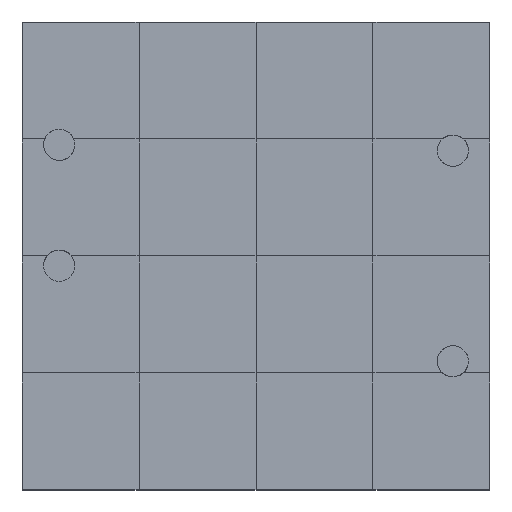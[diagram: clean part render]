
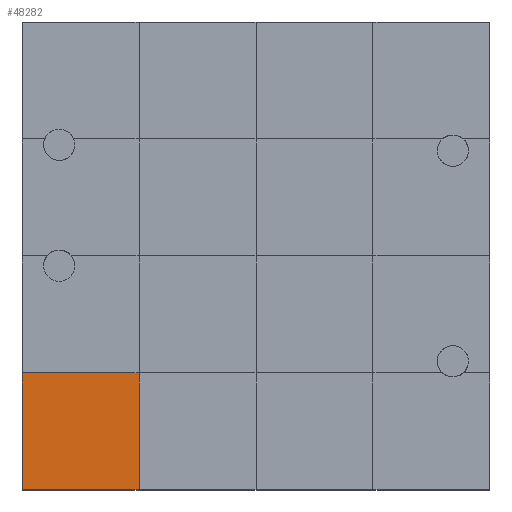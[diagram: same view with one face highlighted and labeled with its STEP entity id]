
A CAD part, top view. The second image highlights one B-rep face of the part: STEP entity #48282.
In plain terms, the highlighted planar face has unit normal (0, 0, 1).
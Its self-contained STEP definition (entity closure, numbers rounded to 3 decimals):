
#48093 = VERTEX_POINT('',#48094);
#48094 = CARTESIAN_POINT('',(0.,0.,1.5));
#48101 = PLANE('',#48102);
#48102 = AXIS2_PLACEMENT_3D('',#48103,#48104,#48105);
#48103 = CARTESIAN_POINT('',(0.,0.,0.));
#48104 = DIRECTION('',(1.,0.,-0.));
#48105 = DIRECTION('',(0.,0.,1.));
#48113 = PLANE('',#48114);
#48114 = AXIS2_PLACEMENT_3D('',#48115,#48116,#48117);
#48115 = CARTESIAN_POINT('',(0.,0.,0.));
#48116 = DIRECTION('',(-0.,1.,0.));
#48117 = DIRECTION('',(0.,0.,1.));
#48154 = VERTEX_POINT('',#48155);
#48155 = CARTESIAN_POINT('',(0.,3.,1.5));
#48181 = EDGE_CURVE('',#48093,#48154,#48182,.T.);
#48182 = SURFACE_CURVE('',#48183,(#48187,#48194),.PCURVE_S1.);
#48183 = LINE('',#48184,#48185);
#48184 = CARTESIAN_POINT('',(0.,0.,1.5));
#48185 = VECTOR('',#48186,1.);
#48186 = DIRECTION('',(-0.,1.,0.));
#48187 = PCURVE('',#48101,#48188);
#48188 = DEFINITIONAL_REPRESENTATION('',(#48189),#48193);
#48189 = LINE('',#48190,#48191);
#48190 = CARTESIAN_POINT('',(1.5,0.));
#48191 = VECTOR('',#48192,1.);
#48192 = DIRECTION('',(0.,-1.));
#48193 = ( GEOMETRIC_REPRESENTATION_CONTEXT(2) 
PARAMETRIC_REPRESENTATION_CONTEXT() REPRESENTATION_CONTEXT('2D SPACE',''
  ) );
#48194 = PCURVE('',#48195,#48200);
#48195 = PLANE('',#48196);
#48196 = AXIS2_PLACEMENT_3D('',#48197,#48198,#48199);
#48197 = CARTESIAN_POINT('',(0.,0.,1.5));
#48198 = DIRECTION('',(0.,0.,1.));
#48199 = DIRECTION('',(1.,0.,-0.));
#48200 = DEFINITIONAL_REPRESENTATION('',(#48201),#48205);
#48201 = LINE('',#48202,#48203);
#48202 = CARTESIAN_POINT('',(0.,0.));
#48203 = VECTOR('',#48204,1.);
#48204 = DIRECTION('',(0.,1.));
#48205 = ( GEOMETRIC_REPRESENTATION_CONTEXT(2) 
PARAMETRIC_REPRESENTATION_CONTEXT() REPRESENTATION_CONTEXT('2D SPACE',''
  ) );
#48234 = EDGE_CURVE('',#48093,#48235,#48237,.T.);
#48235 = VERTEX_POINT('',#48236);
#48236 = CARTESIAN_POINT('',(3.,0.,1.5));
#48237 = SURFACE_CURVE('',#48238,(#48242,#48249),.PCURVE_S1.);
#48238 = LINE('',#48239,#48240);
#48239 = CARTESIAN_POINT('',(0.,0.,1.5));
#48240 = VECTOR('',#48241,1.);
#48241 = DIRECTION('',(1.,0.,-0.));
#48242 = PCURVE('',#48113,#48243);
#48243 = DEFINITIONAL_REPRESENTATION('',(#48244),#48248);
#48244 = LINE('',#48245,#48246);
#48245 = CARTESIAN_POINT('',(1.5,0.));
#48246 = VECTOR('',#48247,1.);
#48247 = DIRECTION('',(0.,1.));
#48248 = ( GEOMETRIC_REPRESENTATION_CONTEXT(2) 
PARAMETRIC_REPRESENTATION_CONTEXT() REPRESENTATION_CONTEXT('2D SPACE',''
  ) );
#48249 = PCURVE('',#48195,#48250);
#48250 = DEFINITIONAL_REPRESENTATION('',(#48251),#48255);
#48251 = LINE('',#48252,#48253);
#48252 = CARTESIAN_POINT('',(0.,0.));
#48253 = VECTOR('',#48254,1.);
#48254 = DIRECTION('',(1.,0.));
#48255 = ( GEOMETRIC_REPRESENTATION_CONTEXT(2) 
PARAMETRIC_REPRESENTATION_CONTEXT() REPRESENTATION_CONTEXT('2D SPACE',''
  ) );
#48282 = ADVANCED_FACE('',(#48283),#48195,.T.);
#48283 = FACE_BOUND('',#48284,.T.);
#48284 = EDGE_LOOP('',(#48285,#48286,#48287,#48315));
#48285 = ORIENTED_EDGE('',*,*,#48181,.F.);
#48286 = ORIENTED_EDGE('',*,*,#48234,.T.);
#48287 = ORIENTED_EDGE('',*,*,#48288,.T.);
#48288 = EDGE_CURVE('',#48235,#48289,#48291,.T.);
#48289 = VERTEX_POINT('',#48290);
#48290 = CARTESIAN_POINT('',(3.,3.,1.5));
#48291 = SURFACE_CURVE('',#48292,(#48296,#48303),.PCURVE_S1.);
#48292 = LINE('',#48293,#48294);
#48293 = CARTESIAN_POINT('',(3.,0.,1.5));
#48294 = VECTOR('',#48295,1.);
#48295 = DIRECTION('',(-0.,1.,0.));
#48296 = PCURVE('',#48195,#48297);
#48297 = DEFINITIONAL_REPRESENTATION('',(#48298),#48302);
#48298 = LINE('',#48299,#48300);
#48299 = CARTESIAN_POINT('',(3.,0.));
#48300 = VECTOR('',#48301,1.);
#48301 = DIRECTION('',(0.,1.));
#48302 = ( GEOMETRIC_REPRESENTATION_CONTEXT(2) 
PARAMETRIC_REPRESENTATION_CONTEXT() REPRESENTATION_CONTEXT('2D SPACE',''
  ) );
#48303 = PCURVE('',#48304,#48309);
#48304 = PLANE('',#48305);
#48305 = AXIS2_PLACEMENT_3D('',#48306,#48307,#48308);
#48306 = CARTESIAN_POINT('',(3.,0.,1.5));
#48307 = DIRECTION('',(0.,0.,1.));
#48308 = DIRECTION('',(1.,0.,-0.));
#48309 = DEFINITIONAL_REPRESENTATION('',(#48310),#48314);
#48310 = LINE('',#48311,#48312);
#48311 = CARTESIAN_POINT('',(0.,0.));
#48312 = VECTOR('',#48313,1.);
#48313 = DIRECTION('',(0.,1.));
#48314 = ( GEOMETRIC_REPRESENTATION_CONTEXT(2) 
PARAMETRIC_REPRESENTATION_CONTEXT() REPRESENTATION_CONTEXT('2D SPACE',''
  ) );
#48315 = ORIENTED_EDGE('',*,*,#48316,.F.);
#48316 = EDGE_CURVE('',#48154,#48289,#48317,.T.);
#48317 = SURFACE_CURVE('',#48318,(#48322,#48329),.PCURVE_S1.);
#48318 = LINE('',#48319,#48320);
#48319 = CARTESIAN_POINT('',(0.,3.,1.5));
#48320 = VECTOR('',#48321,1.);
#48321 = DIRECTION('',(1.,0.,-0.));
#48322 = PCURVE('',#48195,#48323);
#48323 = DEFINITIONAL_REPRESENTATION('',(#48324),#48328);
#48324 = LINE('',#48325,#48326);
#48325 = CARTESIAN_POINT('',(0.,3.));
#48326 = VECTOR('',#48327,1.);
#48327 = DIRECTION('',(1.,0.));
#48328 = ( GEOMETRIC_REPRESENTATION_CONTEXT(2) 
PARAMETRIC_REPRESENTATION_CONTEXT() REPRESENTATION_CONTEXT('2D SPACE',''
  ) );
#48329 = PCURVE('',#48330,#48335);
#48330 = PLANE('',#48331);
#48331 = AXIS2_PLACEMENT_3D('',#48332,#48333,#48334);
#48332 = CARTESIAN_POINT('',(0.,3.,1.5));
#48333 = DIRECTION('',(0.,0.,1.));
#48334 = DIRECTION('',(1.,0.,-0.));
#48335 = DEFINITIONAL_REPRESENTATION('',(#48336),#48340);
#48336 = LINE('',#48337,#48338);
#48337 = CARTESIAN_POINT('',(0.,0.));
#48338 = VECTOR('',#48339,1.);
#48339 = DIRECTION('',(1.,0.));
#48340 = ( GEOMETRIC_REPRESENTATION_CONTEXT(2) 
PARAMETRIC_REPRESENTATION_CONTEXT() REPRESENTATION_CONTEXT('2D SPACE',''
  ) );
